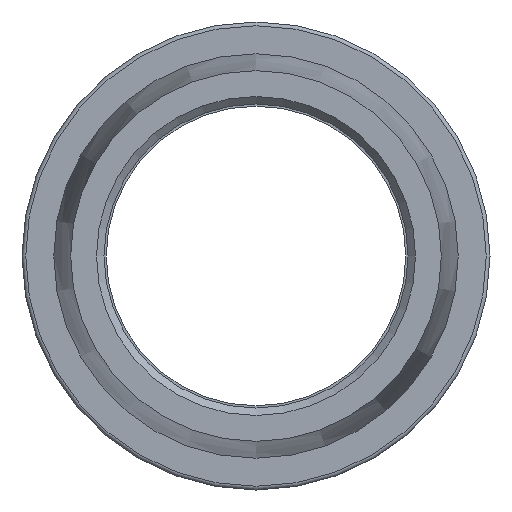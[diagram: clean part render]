
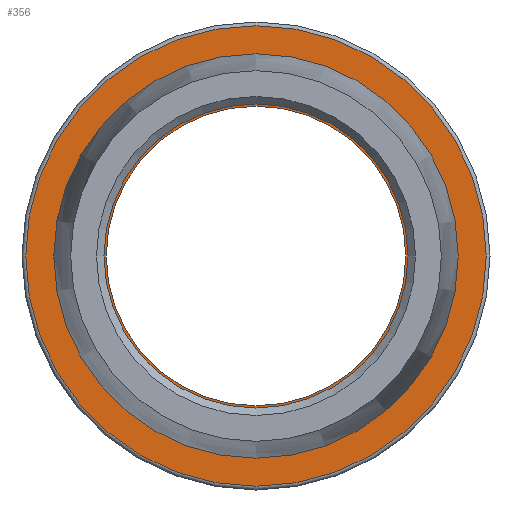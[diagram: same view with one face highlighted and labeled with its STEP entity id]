
A CAD part, front view. The second image highlights one B-rep face of the part: STEP entity #356.
In plain terms, the highlighted planar face has unit normal (0, -1, 0).
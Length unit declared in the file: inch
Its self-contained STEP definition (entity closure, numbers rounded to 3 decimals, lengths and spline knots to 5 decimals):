
#37=FACE_BOUND('',#86,.T.);
#44=PLANE('',#423);
#61=FACE_OUTER_BOUND('',#85,.T.);
#85=EDGE_LOOP('',(#314,#315));
#86=EDGE_LOOP('',(#316,#317));
#136=CIRCLE('',#415,0.3075);
#140=CIRCLE('',#419,0.3075);
#143=CIRCLE('',#424,0.2);
#144=CIRCLE('',#425,0.2);
#175=VERTEX_POINT('',#644);
#176=VERTEX_POINT('',#645);
#181=VERTEX_POINT('',#660);
#182=VERTEX_POINT('',#661);
#220=EDGE_CURVE('',#175,#176,#136,.T.);
#224=EDGE_CURVE('',#176,#175,#140,.T.);
#228=EDGE_CURVE('',#181,#182,#143,.T.);
#229=EDGE_CURVE('',#182,#181,#144,.T.);
#314=ORIENTED_EDGE('',*,*,#220,.F.);
#315=ORIENTED_EDGE('',*,*,#224,.F.);
#316=ORIENTED_EDGE('',*,*,#228,.F.);
#317=ORIENTED_EDGE('',*,*,#229,.F.);
#356=ADVANCED_FACE('',(#61,#37),#44,.T.);
#415=AXIS2_PLACEMENT_3D('',#646,#526,#527);
#419=AXIS2_PLACEMENT_3D('',#652,#534,#535);
#423=AXIS2_PLACEMENT_3D('',#659,#543,#544);
#424=AXIS2_PLACEMENT_3D('',#662,#545,#546);
#425=AXIS2_PLACEMENT_3D('',#663,#547,#548);
#526=DIRECTION('center_axis',(0.,1.,0.));
#527=DIRECTION('ref_axis',(0.,0.,1.));
#534=DIRECTION('center_axis',(0.,1.,0.));
#535=DIRECTION('ref_axis',(0.,0.,1.));
#543=DIRECTION('center_axis',(0.,-1.,0.));
#544=DIRECTION('ref_axis',(0.,0.,-1.));
#545=DIRECTION('center_axis',(0.,-1.,0.));
#546=DIRECTION('ref_axis',(1.,0.,0.));
#547=DIRECTION('center_axis',(0.,-1.,0.));
#548=DIRECTION('ref_axis',(1.,0.,0.));
#644=CARTESIAN_POINT('',(0.,-0.03,-0.3075));
#645=CARTESIAN_POINT('',(0.,-0.03,0.3075));
#646=CARTESIAN_POINT('Origin',(0.,-0.03,0.));
#652=CARTESIAN_POINT('Origin',(0.,-0.03,0.));
#659=CARTESIAN_POINT('Origin',(0.,-0.03,-0.2));
#660=CARTESIAN_POINT('',(0.,-0.03,-0.2));
#661=CARTESIAN_POINT('',(0.,-0.03,0.2));
#662=CARTESIAN_POINT('Origin',(0.,-0.03,0.));
#663=CARTESIAN_POINT('Origin',(0.,-0.03,0.));
